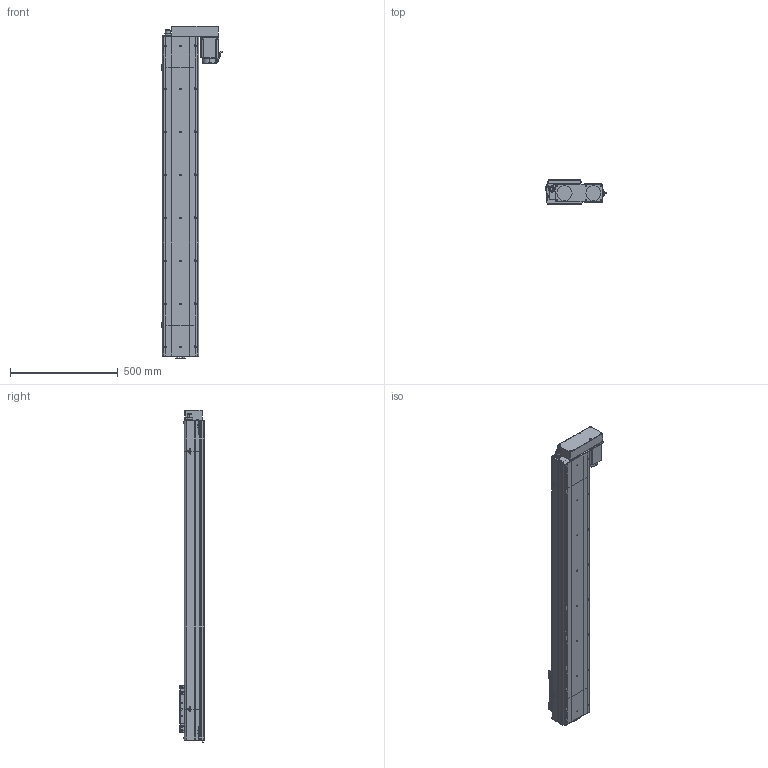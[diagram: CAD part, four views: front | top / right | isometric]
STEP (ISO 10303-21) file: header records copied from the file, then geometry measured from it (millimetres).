
FILE_DESCRIPTION (( 'STEP AP214' ), '1' );
FILE_NAME ('D17 CSH BL S1200.STEP', '2010-06-29T14:31:25', ( 'Christophe Gaillard' ), ( 'SGA' ), 'SwSTEP 2.0', 'SolidWorks 2010', '' );
FILE_SCHEMA (( 'AUTOMOTIVE_DESIGN' ));
Length unit declared in the file: millimetre
Products named in the file (29): Head D17 BL_Default; couvercle D17-1200_Default; chariot D17_Default; couvercle D17_Default; plaque de serrage D17_Default; avant 90BLDC100A-640; Chariot D17_Default; Moteur motionking 90BLDC100A-640; vis M5 L60_Default; Plaque de bout D17 head BL_Default; vis M5 L47_Default; Support Moteur BL_Default; plaque de serrage D17 head BL_Default; D17 CSH BL S1200; Tail D17_Default; couvercle D17 head BL_Default; corps 90BLDC100A-640; support chariot D17_Default; codeur 90BLDC100-640; ecrou_Default; Corp D17 S1200_Default; Conecteur2_Default; Corp L1200_Default; Conecteur_Default; Corp Head  D17 BL_Default; Corp Tail D17_Default; glissiere_Default; vis M5 L15_Default; Plaque de bout D17_Default
Assembly tree (52 placements, depth 4):
  D17 CSH BL S1200
    Tail D17_Default
      couvercle D17_Default
      plaque de serrage D17_Default
      vis M5 L15_Default  x6
      Corp Tail D17_Default
      Plaque de bout D17_Default
    Chariot D17_Default
      vis M5 L15_Default  x8
      glissiere_Default
      support chariot D17_Default
      chariot D17_Default
    Corp D17 S1200_Default
      Corp L1200_Default
      couvercle D17-1200_Default
    Head D17 BL_Default
      Plaque de bout D17 head BL_Default
      vis M5 L15_Default  x4
      vis M5 L60_Default  x4
      ecrou_Default  x4
      vis M5 L47_Default  x2
      Moteur motionking 90BLDC100A-640
        Conecteur_Default
        codeur 90BLDC100-640
        avant 90BLDC100A-640
        corps 90BLDC100A-640
        Conecteur2_Default
      Support Moteur BL_Default
      Corp Head  D17 BL_Default
      couvercle D17 head BL_Default
      plaque de serrage D17 head BL_Default
Bounding box: 279.16 x 114 x 1544.2 mm (x, y, z)
Volume: 10942837.7 mm3; surface area: 1920815 mm2
Topology: 89 solids, 89 shells, 3200 faces, 8062 edges, 5258 vertices
Faces by surface type: plane 1895, bspline 758, cylinder 428, torus 67, cone 48, sphere 4
Entity records: 149584 total; most frequent: CARTESIAN_POINT 81254, ORIENTED_EDGE 13664, DIRECTION 9914, EDGE_CURVE 6832, VECTOR 4590, LINE 4590, VERTEX_POINT 4526, EDGE_LOOP 2900
